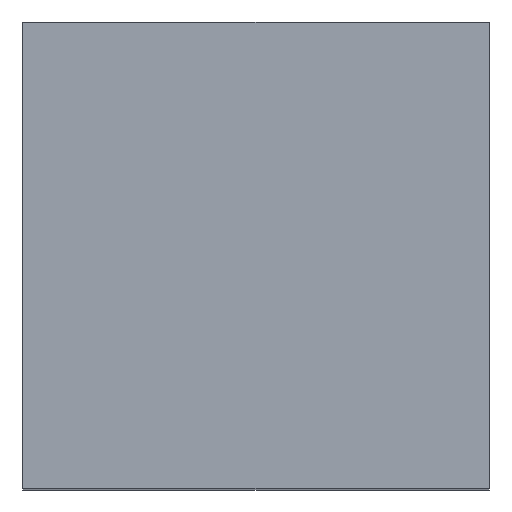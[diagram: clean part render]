
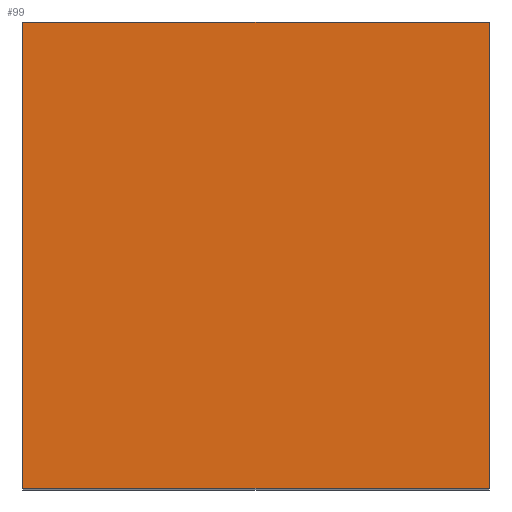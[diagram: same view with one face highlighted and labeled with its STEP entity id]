
A CAD part, top view. The second image highlights one B-rep face of the part: STEP entity #99.
In plain terms, the highlighted planar face has unit normal (0, 0, 1).
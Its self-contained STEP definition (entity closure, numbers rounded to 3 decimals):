
#9 = FACE_OUTER_BOUND ( 'NONE', #188, .T. ) ;
#11 = EDGE_CURVE ( 'NONE', #18, #202, #20, .T. ) ;
#18 = VERTEX_POINT ( 'NONE', #120 ) ;
#20 = LINE ( 'NONE', #195, #182 ) ;
#23 = DIRECTION ( 'NONE',  ( 1., 0., 0. ) ) ;
#26 = CARTESIAN_POINT ( 'NONE',  ( 0., 0., 900. ) ) ;
#45 = ORIENTED_EDGE ( 'NONE', *, *, #110, .F. ) ;
#57 = EDGE_CURVE ( 'NONE', #77, #18, #68, .T. ) ;
#64 = LINE ( 'NONE', #228, #211 ) ;
#68 = LINE ( 'NONE', #138, #194 ) ;
#77 = VERTEX_POINT ( 'NONE', #26 ) ;
#83 = CARTESIAN_POINT ( 'NONE',  ( -450., 0., 900. ) ) ;
#85 = AXIS2_PLACEMENT_3D ( 'NONE', #226, #119, #23 ) ;
#86 = VERTEX_POINT ( 'NONE', #106 ) ;
#87 = ORIENTED_EDGE ( 'NONE', *, *, #57, .T. ) ;
#99 = ADVANCED_FACE ( 'NONE', ( #9 ), #159, .T. ) ;
#101 = EDGE_CURVE ( 'NONE', #86, #202, #103, .T. ) ;
#103 = LINE ( 'NONE', #83, #149 ) ;
#106 = CARTESIAN_POINT ( 'NONE',  ( -450., 0., 900. ) ) ;
#108 = CARTESIAN_POINT ( 'NONE',  ( -450., 450., 900. ) ) ;
#110 = EDGE_CURVE ( 'NONE', #77, #86, #64, .T. ) ;
#119 = DIRECTION ( 'NONE',  ( 0., 0., 1. ) ) ;
#120 = CARTESIAN_POINT ( 'NONE',  ( 0., 450., 900. ) ) ;
#121 = DIRECTION ( 'NONE',  ( -1., 0., 0. ) ) ;
#138 = CARTESIAN_POINT ( 'NONE',  ( 0., 0., 900. ) ) ;
#143 = DIRECTION ( 'NONE',  ( -1., 0., 0. ) ) ;
#144 = ORIENTED_EDGE ( 'NONE', *, *, #101, .F. ) ;
#149 = VECTOR ( 'NONE', #227, 1000. ) ;
#159 = PLANE ( 'NONE',  #85 ) ;
#176 = DIRECTION ( 'NONE',  ( 0., 1., 0. ) ) ;
#182 = VECTOR ( 'NONE', #121, 1000. ) ;
#188 = EDGE_LOOP ( 'NONE', ( #87, #221, #144, #45 ) ) ;
#194 = VECTOR ( 'NONE', #176, 1000. ) ;
#195 = CARTESIAN_POINT ( 'NONE',  ( 0., 450., 900. ) ) ;
#202 = VERTEX_POINT ( 'NONE', #108 ) ;
#211 = VECTOR ( 'NONE', #143, 1000. ) ;
#221 = ORIENTED_EDGE ( 'NONE', *, *, #11, .T. ) ;
#226 = CARTESIAN_POINT ( 'NONE',  ( 0., 0., 900. ) ) ;
#227 = DIRECTION ( 'NONE',  ( 0., 1., 0. ) ) ;
#228 = CARTESIAN_POINT ( 'NONE',  ( 0., 0., 900. ) ) ;
